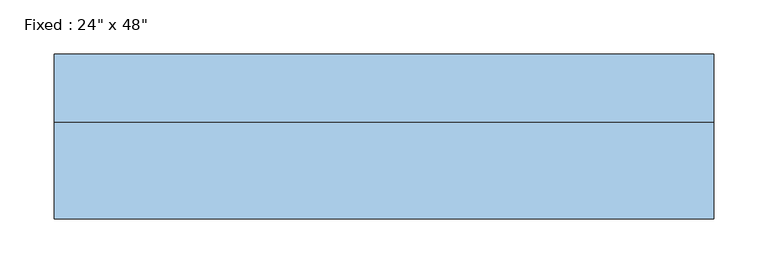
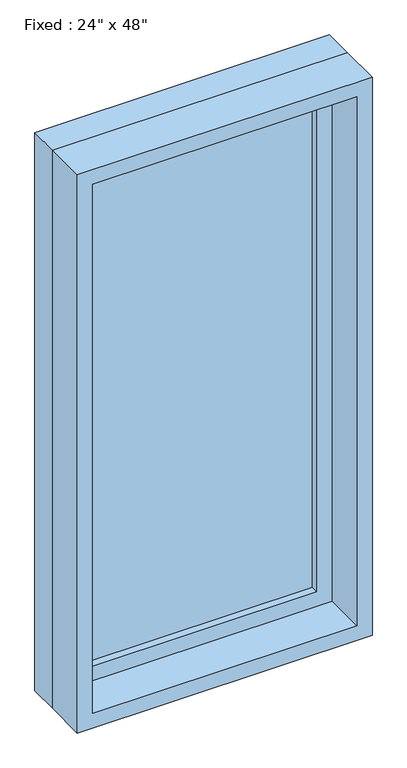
"""IFC4 building model written with IfcOpenShell, lengths in millimetres: window geometry."""

from ifc_helpers import new_model, si_unit, frame, origin, place, context, project, spatial, polyline, outline, extrude, source, transform, mapped, element, save


def window_ac770f06(model_context):
    return source(origin(), model_context, "Body", "SweptSolid", [
        extrude(outline(polyline([(203.2, 28.575), (-279.4, 28.575), (-279.4, 41.275), (203.2, 41.275), (203.2, 28.575)])), frame((0.0, 0.0, 977.9), z_axis=(0.0, 0.0, 1.0), x_axis=(1.0, 0.0, 0.0)), (0.0, 0.0, 1.0), 1092.2),
        extrude(outline(polyline([(2114.55, -323.85), (933.45, -323.85), (933.45, 247.65), (2114.55, 247.65), (2114.55, -323.85)]), holes=[polyline([(2070.1, -279.4), (2070.1, 203.2), (977.9, 203.2), (977.9, -279.4), (2070.1, -279.4)])]), frame((0.0, 12.7, 0.0), z_axis=(0.0, 1.0, 0.0), x_axis=(0.0, 0.0, 1.0)), (0.0, 0.0, 1.0), 44.45),
        extrude(outline(polyline([(2133.6, -342.9), (914.4, -342.9), (914.4, 266.7), (2133.6, 266.7), (2133.6, -342.9)]), holes=[polyline([(2101.85, -311.15), (2101.85, 234.95), (946.15, 234.95), (946.15, -311.15), (2101.85, -311.15)])]), frame((0.0, -76.2, 0.0), z_axis=(0.0, 1.0, 0.0), x_axis=(0.0, 0.0, 1.0)), (0.0, 0.0, 1.0), 88.9),
        extrude(outline(polyline([(2133.6, 266.7), (2133.6, -342.9), (914.4, -342.9), (914.4, 266.7), (2133.6, 266.7)]), holes=[polyline([(2114.55, 247.65), (933.45, 247.65), (933.45, -323.85), (2114.55, -323.85), (2114.55, 247.65)])]), frame((0.0, 12.7, 0.0), z_axis=(0.0, 1.0, 0.0), x_axis=(0.0, 0.0, 1.0)), (0.0, 0.0, 1.0), 63.5),
    ])


if __name__ == "__main__":
    model = new_model("IFC4")
    model_context = context("Model", 3, world=origin())
    ifc_project = project(units=[si_unit("LENGTHUNIT", "METRE", prefix="MILLI")], contexts=[model_context])
    site = spatial("IfcSite", under=ifc_project)
    building = spatial("IfcBuilding", under=site)
    placement = place(None, origin())
    window_shape = window_ac770f06(model_context)
    element("IfcWindow", 1, ObjectType="Fixed : 24\" x 48\"", at=placement, inside=building, context=model_context, shape_type="MappedRepresentation", body=[
        mapped(window_shape, transform((0.0, 0.0, 0.0), x_axis=(1.0, 0.0, 0.0), y_axis=(0.0, 1.0, 0.0), z_axis=(0.0, 0.0, 1.0))),
    ])
    save(model, "model.ifc")
